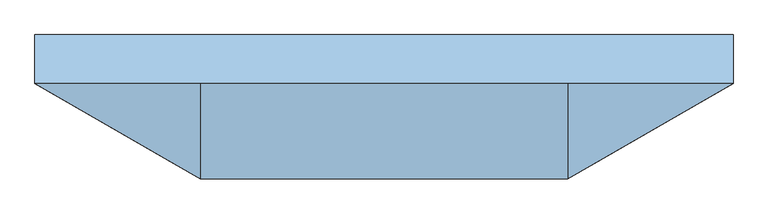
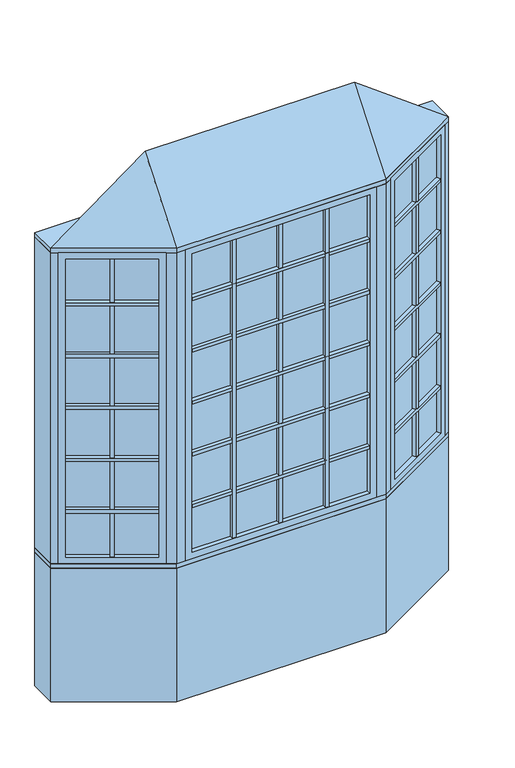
"""IFC4 building model written with IfcOpenShell, lengths in millimetres: window geometry, Pollard_Windows_Tudor Casement Bows and Bays : AML-BAY 30 AFR0518-12-500_GC."""

from ifc_helpers import new_model, si_unit, frame, origin, origin_with_axes, place, context, project, spatial, polyline, outline, extrude, faceted_brep, source, transform, mapped, element, save


def window_4c319ae2(model_context):
    return source(origin(), model_context, "Body", "SolidModel", [
        extrude(outline(polyline([(645.7305346, -327.3537343), (634.7305346, -308.3011754), (1015.6135794, -88.3982469), (1026.6135794, -107.4508058), (645.7305346, -327.3537343)])), frame((0.0, 0.0, 1690.998), z_axis=(0.0, 0.0, 1.0), x_axis=(1.0, 0.0, 0.0)), (0.0, 0.0, 1.0), 18.0),
        extrude(outline(polyline([(632.1905346, -303.9017664), (621.1905346, -284.8492075), (1002.0735794, -64.946279), (1013.0735794, -83.9988379), (632.1905346, -303.9017664)])), frame((0.0, 0.0, 1690.998), z_axis=(0.0, 0.0, 1.0), x_axis=(1.0, 0.0, 0.0)), (0.0, 0.0, 1.0), 18.0),
        extrude(outline(polyline([(645.7305346, -327.3537343), (634.7305346, -308.3011754), (1015.6135794, -88.3982469), (1026.6135794, -107.4508058), (645.7305346, -327.3537343)])), frame((0.0, 0.0, 1090.998), z_axis=(0.0, 0.0, 1.0), x_axis=(1.0, 0.0, 0.0)), (0.0, 0.0, 1.0), 18.0),
        extrude(outline(polyline([(632.1905346, -303.9017664), (621.1905346, -284.8492075), (1002.0735794, -64.946279), (1013.0735794, -83.9988379), (632.1905346, -303.9017664)])), frame((0.0, 0.0, 1090.998), z_axis=(0.0, 0.0, 1.0), x_axis=(1.0, 0.0, 0.0)), (0.0, 0.0, 1.0), 18.0),
        extrude(outline(polyline([(645.7305346, -327.3537343), (634.7305346, -308.3011754), (1015.6135794, -88.3982469), (1026.6135794, -107.4508058), (645.7305346, -327.3537343)])), frame((0.0, 0.0, 1390.998), z_axis=(0.0, 0.0, 1.0), x_axis=(1.0, 0.0, 0.0)), (0.0, 0.0, 1.0), 18.0),
        extrude(outline(polyline([(632.1905346, -303.9017664), (621.1905346, -284.8492075), (1002.0735794, -64.946279), (1013.0735794, -83.9988379), (632.1905346, -303.9017664)])), frame((0.0, 0.0, 1390.998), z_axis=(0.0, 0.0, 1.0), x_axis=(1.0, 0.0, 0.0)), (0.0, 0.0, 1.0), 18.0),
        extrude(outline(polyline([(645.7305346, -327.3537343), (634.7305346, -308.3011754), (1015.6135794, -88.3982469), (1026.6135794, -107.4508058), (645.7305346, -327.3537343)])), frame((0.0, 0.0, 1990.998), z_axis=(0.0, 0.0, 1.0), x_axis=(1.0, 0.0, 0.0)), (0.0, 0.0, 1.0), 18.0),
        extrude(outline(polyline([(632.1905346, -303.9017664), (621.1905346, -284.8492075), (1002.0735794, -64.946279), (1013.0735794, -83.9988379), (632.1905346, -303.9017664)])), frame((0.0, 0.0, 1990.998), z_axis=(0.0, 0.0, 1.0), x_axis=(1.0, 0.0, 0.0)), (0.0, 0.0, 1.0), 18.0),
        extrude(outline(polyline([(645.7305346, -327.3537343), (634.7305346, -308.3011754), (1015.6135794, -88.3982469), (1026.6135794, -107.4508058), (645.7305346, -327.3537343)])), frame((0.0, 0.0, 2290.998), z_axis=(0.0, 0.0, 1.0), x_axis=(1.0, 0.0, 0.0)), (0.0, 0.0, 1.0), 18.0),
        extrude(outline(polyline([(632.1905346, -303.9017664), (621.1905346, -284.8492075), (1002.0735794, -64.946279), (1013.0735794, -83.9988379), (632.1905346, -303.9017664)])), frame((0.0, 0.0, 2290.998), z_axis=(0.0, 0.0, 1.0), x_axis=(1.0, 0.0, 0.0)), (0.0, 0.0, 1.0), 18.0),
        extrude(outline(polyline([(832.9662856, -193.8497112), (843.9662856, -212.9022701), (828.3778284, -221.9022701), (817.3778284, -202.8497112), (832.9662856, -193.8497112)])), frame((0.0, 0.0, 835.8628), z_axis=(0.0, 0.0, 1.0), x_axis=(1.0, 0.0, 0.0)), (0.0, 0.0, 1.0), 1728.2704),
        extrude(outline(polyline([(830.4262856, -189.4503021), (814.8378284, -198.4503021), (803.8378284, -179.3977432), (819.4262856, -170.3977432), (830.4262856, -189.4503021)])), frame((0.0, 0.0, 835.8628), z_axis=(0.0, 0.0, 1.0), x_axis=(1.0, 0.0, 0.0)), (0.0, 0.0, 1.0), 1728.2704),
        extrude(outline(polyline([(1026.612102, -82.0482469), (623.7320119, -314.6511754), (621.1920119, -310.2517664), (1024.072102, -77.6488379), (1026.612102, -82.0482469)])), frame((0.0, 0.0, 823.1628), z_axis=(0.0, 0.0, 1.0), x_axis=(1.0, 0.0, 0.0)), (0.0, 0.0, 1.0), 1753.6704),
        faceted_brep([(1015.6135794, -88.3982469, 835.8628), (1028.3135794, -110.3952922, 835.8628), (1028.3135794, -110.3952922, 2564.1332), (1015.6135794, -88.3982469, 2564.1332), (1024.072102, -77.6488379, 823.1628), (1026.612102, -82.0482469, 823.1628), (1026.612102, -82.0482469, 2576.8332), (1024.072102, -77.6488379, 2576.8332), (1000.3735794, -62.0017926, 835.8628), (1013.0735794, -83.9988379, 835.8628), (1013.0735794, -83.9988379, 2564.1332), (1000.3735794, -62.0017926, 2564.1332), (1059.3734073, -92.4628922, 799.998), (1031.4334073, -44.0693926, 799.998), (1031.4334073, -44.0693926, 2599.998), (1059.3734073, -92.4628922, 2599.998), (647.4305346, -330.2982207, 2564.1332), (634.7305346, -308.3011754, 2564.1332), (623.7320119, -314.6511754, 2576.8332), (621.1920119, -310.2517664, 2576.8332), (632.1905346, -303.9017664, 2564.1332), (619.4905346, -281.9047211, 2564.1332), (588.4307067, -299.8371211, 2599.998), (616.3707067, -348.2306207, 2599.998), (647.4305346, -330.2982207, 835.8628), (634.7305346, -308.3011754, 835.8628), (623.7320119, -314.6511754, 823.1628), (621.1920119, -310.2517664, 823.1628), (632.1905346, -303.9017664, 835.8628), (619.4905346, -281.9047211, 835.8628), (588.4307067, -299.8371211, 799.998), (616.3707067, -348.2306207, 799.998)], [[[0, 1, 2, 3]], [[4, 5, 6, 7]], [[8, 9, 10, 11]], [[12, 13, 14, 15]], [[3, 2, 16, 17]], [[7, 6, 18, 19]], [[11, 10, 20, 21]], [[15, 14, 22, 23]], [[17, 16, 24, 25]], [[19, 18, 26, 27]], [[21, 20, 28, 29]], [[23, 22, 30, 31]], [[25, 24, 1, 0]], [[5, 26, 18, 6], [3, 17, 25, 0]], [[27, 26, 5, 4]], [[7, 19, 27, 4], [9, 28, 20, 10]], [[29, 28, 9, 8]], [[13, 30, 22, 14], [11, 21, 29, 8]], [[31, 30, 13, 12]], [[15, 23, 31, 12], [1, 24, 16, 2]]]),
        extrude(outline(polyline([(263.4524182, -347.8306207), (263.4524182, -369.8306207), (245.4524182, -369.8306207), (245.4524182, -347.8306207), (263.4524182, -347.8306207)])), frame((0.0, 0.0, 835.8628), z_axis=(0.0, 0.0, 1.0), x_axis=(1.0, 0.0, 0.0)), (0.0, 0.0, 1.0), 1728.2704),
        extrude(outline(polyline([(263.4524182, -342.7506207), (245.4524182, -342.7506207), (245.4524182, -320.7506207), (263.4524182, -320.7506207), (263.4524182, -342.7506207)])), frame((0.0, 0.0, 835.8628), z_axis=(0.0, 0.0, 1.0), x_axis=(1.0, 0.0, 0.0)), (0.0, 0.0, 1.0), 1728.2704),
        extrude(outline(polyline([(-245.4524182, -347.8306207), (-245.4524182, -369.8306207), (-263.4524182, -369.8306207), (-263.4524182, -347.8306207), (-245.4524182, -347.8306207)])), frame((0.0, 0.0, 835.8628), z_axis=(0.0, 0.0, 1.0), x_axis=(1.0, 0.0, 0.0)), (0.0, 0.0, 1.0), 1728.2704),
        extrude(outline(polyline([(-245.4524182, -342.7506207), (-263.4524182, -342.7506207), (-263.4524182, -320.7506207), (-245.4524182, -320.7506207), (-245.4524182, -342.7506207)])), frame((0.0, 0.0, 835.8628), z_axis=(0.0, 0.0, 1.0), x_axis=(1.0, 0.0, 0.0)), (0.0, 0.0, 1.0), 1728.2704),
        extrude(outline(polyline([(-487.2046365, -369.8306207), (-487.2046365, -347.8306207), (487.2046365, -347.8306207), (487.2046365, -369.8306207), (-487.2046365, -369.8306207)])), frame((0.0, 0.0, 1090.998), z_axis=(0.0, 0.0, 1.0), x_axis=(1.0, 0.0, 0.0)), (0.0, 0.0, 1.0), 18.0),
        extrude(outline(polyline([(-487.2046365, -342.7506207), (-487.2046365, -320.7506207), (487.2046365, -320.7506207), (487.2046365, -342.7506207), (-487.2046365, -342.7506207)])), frame((0.0, 0.0, 1090.998), z_axis=(0.0, 0.0, 1.0), x_axis=(1.0, 0.0, 0.0)), (0.0, 0.0, 1.0), 18.0),
        extrude(outline(polyline([(-487.2046365, -369.8306207), (-487.2046365, -347.8306207), (487.2046365, -347.8306207), (487.2046365, -369.8306207), (-487.2046365, -369.8306207)])), frame((0.0, 0.0, 1390.998), z_axis=(0.0, 0.0, 1.0), x_axis=(1.0, 0.0, 0.0)), (0.0, 0.0, 1.0), 18.0),
        extrude(outline(polyline([(-487.2046365, -342.7506207), (-487.2046365, -320.7506207), (487.2046365, -320.7506207), (487.2046365, -342.7506207), (-487.2046365, -342.7506207)])), frame((0.0, 0.0, 1390.998), z_axis=(0.0, 0.0, 1.0), x_axis=(1.0, 0.0, 0.0)), (0.0, 0.0, 1.0), 18.0),
        extrude(outline(polyline([(-487.2046365, -369.8306207), (-487.2046365, -347.8306207), (487.2046365, -347.8306207), (487.2046365, -369.8306207), (-487.2046365, -369.8306207)])), frame((0.0, 0.0, 1690.998), z_axis=(0.0, 0.0, 1.0), x_axis=(1.0, 0.0, 0.0)), (0.0, 0.0, 1.0), 18.0),
        extrude(outline(polyline([(-487.2046365, -342.7506207), (-487.2046365, -320.7506207), (487.2046365, -320.7506207), (487.2046365, -342.7506207), (-487.2046365, -342.7506207)])), frame((0.0, 0.0, 1690.998), z_axis=(0.0, 0.0, 1.0), x_axis=(1.0, 0.0, 0.0)), (0.0, 0.0, 1.0), 18.0),
        extrude(outline(polyline([(-487.2046365, -369.8306207), (-487.2046365, -347.8306207), (487.2046365, -347.8306207), (487.2046365, -369.8306207), (-487.2046365, -369.8306207)])), frame((0.0, 0.0, 1990.998), z_axis=(0.0, 0.0, 1.0), x_axis=(1.0, 0.0, 0.0)), (0.0, 0.0, 1.0), 18.0),
        extrude(outline(polyline([(-487.2046365, -342.7506207), (-487.2046365, -320.7506207), (487.2046365, -320.7506207), (487.2046365, -342.7506207), (-487.2046365, -342.7506207)])), frame((0.0, 0.0, 1990.998), z_axis=(0.0, 0.0, 1.0), x_axis=(1.0, 0.0, 0.0)), (0.0, 0.0, 1.0), 18.0),
        extrude(outline(polyline([(-1026.6135794, -107.4508058), (-1015.6135794, -88.3982469), (-634.7305346, -308.3011754), (-645.7305346, -327.3537343), (-1026.6135794, -107.4508058)])), frame((0.0, 0.0, 1090.998), z_axis=(0.0, 0.0, 1.0), x_axis=(1.0, 0.0, 0.0)), (0.0, 0.0, 1.0), 18.0),
        extrude(outline(polyline([(-1013.0735794, -83.9988379), (-1002.0735794, -64.946279), (-621.1905346, -284.8492075), (-632.1905346, -303.9017664), (-1013.0735794, -83.9988379)])), frame((0.0, 0.0, 1090.998), z_axis=(0.0, 0.0, 1.0), x_axis=(1.0, 0.0, 0.0)), (0.0, 0.0, 1.0), 18.0),
        extrude(outline(polyline([(-1026.6135794, -107.4508058), (-1015.6135794, -88.3982469), (-634.7305346, -308.3011754), (-645.7305346, -327.3537343), (-1026.6135794, -107.4508058)])), frame((0.0, 0.0, 1390.998), z_axis=(0.0, 0.0, 1.0), x_axis=(1.0, 0.0, 0.0)), (0.0, 0.0, 1.0), 18.0),
        extrude(outline(polyline([(-1013.0735794, -83.9988379), (-1002.0735794, -64.946279), (-621.1905346, -284.8492075), (-632.1905346, -303.9017664), (-1013.0735794, -83.9988379)])), frame((0.0, 0.0, 1390.998), z_axis=(0.0, 0.0, 1.0), x_axis=(1.0, 0.0, 0.0)), (0.0, 0.0, 1.0), 18.0),
        extrude(outline(polyline([(-1026.6135794, -107.4508058), (-1015.6135794, -88.3982469), (-634.7305346, -308.3011754), (-645.7305346, -327.3537343), (-1026.6135794, -107.4508058)])), frame((0.0, 0.0, 1690.998), z_axis=(0.0, 0.0, 1.0), x_axis=(1.0, 0.0, 0.0)), (0.0, 0.0, 1.0), 18.0),
        extrude(outline(polyline([(-1013.0735794, -83.9988379), (-1002.0735794, -64.946279), (-621.1905346, -284.8492075), (-632.1905346, -303.9017664), (-1013.0735794, -83.9988379)])), frame((0.0, 0.0, 1690.998), z_axis=(0.0, 0.0, 1.0), x_axis=(1.0, 0.0, 0.0)), (0.0, 0.0, 1.0), 18.0),
        extrude(outline(polyline([(-1026.6135794, -107.4508058), (-1015.6135794, -88.3982469), (-634.7305346, -308.3011754), (-645.7305346, -327.3537343), (-1026.6135794, -107.4508058)])), frame((0.0, 0.0, 1990.998), z_axis=(0.0, 0.0, 1.0), x_axis=(1.0, 0.0, 0.0)), (0.0, 0.0, 1.0), 18.0),
        extrude(outline(polyline([(-1013.0735794, -83.9988379), (-1002.0735794, -64.946279), (-621.1905346, -284.8492075), (-632.1905346, -303.9017664), (-1013.0735794, -83.9988379)])), frame((0.0, 0.0, 1990.998), z_axis=(0.0, 0.0, 1.0), x_axis=(1.0, 0.0, 0.0)), (0.0, 0.0, 1.0), 18.0),
        extrude(outline(polyline([(-1026.6135794, -107.4508058), (-1015.6135794, -88.3982469), (-634.7305346, -308.3011754), (-645.7305346, -327.3537343), (-1026.6135794, -107.4508058)])), frame((0.0, 0.0, 2290.998), z_axis=(0.0, 0.0, 1.0), x_axis=(1.0, 0.0, 0.0)), (0.0, 0.0, 1.0), 18.0),
        extrude(outline(polyline([(-1013.0735794, -83.9988379), (-1002.0735794, -64.946279), (-621.1905346, -284.8492075), (-632.1905346, -303.9017664), (-1013.0735794, -83.9988379)])), frame((0.0, 0.0, 2290.998), z_axis=(0.0, 0.0, 1.0), x_axis=(1.0, 0.0, 0.0)), (0.0, 0.0, 1.0), 18.0),
        extrude(outline(polyline([(-487.2046365, -369.8306207), (-487.2046365, -347.8306207), (487.2046365, -347.8306207), (487.2046365, -369.8306207), (-487.2046365, -369.8306207)])), frame((0.0, 0.0, 2290.998), z_axis=(0.0, 0.0, 1.0), x_axis=(1.0, 0.0, 0.0)), (0.0, 0.0, 1.0), 18.0),
        extrude(outline(polyline([(-487.2046365, -342.7506207), (-487.2046365, -320.7506207), (487.2046365, -320.7506207), (487.2046365, -342.7506207), (-487.2046365, -342.7506207)])), frame((0.0, 0.0, 2290.998), z_axis=(0.0, 0.0, 1.0), x_axis=(1.0, 0.0, 0.0)), (0.0, 0.0, 1.0), 18.0),
        extrude(outline(polyline([(-817.3778284, -202.8497112), (-828.3778284, -221.9022701), (-843.9662856, -212.9022701), (-832.9662856, -193.8497112), (-817.3778284, -202.8497112)])), frame((0.0, 0.0, 835.8628), z_axis=(0.0, 0.0, 1.0), x_axis=(1.0, 0.0, 0.0)), (0.0, 0.0, 1.0), 1728.2704),
        extrude(outline(polyline([(-814.8378284, -198.4503021), (-830.4262856, -189.4503021), (-819.4262856, -170.3977432), (-803.8378284, -179.3977432), (-814.8378284, -198.4503021)])), frame((0.0, 0.0, 835.8628), z_axis=(0.0, 0.0, 1.0), x_axis=(1.0, 0.0, 0.0)), (0.0, 0.0, 1.0), 1728.2704),
        extrude(outline(polyline([(9.0, -347.8306207), (9.0, -369.8306207), (-9.0, -369.8306207), (-9.0, -347.8306207), (9.0, -347.8306207)])), frame((0.0, 0.0, 835.8628), z_axis=(0.0, 0.0, 1.0), x_axis=(1.0, 0.0, 0.0)), (0.0, 0.0, 1.0), 1728.2704),
        extrude(outline(polyline([(9.0, -342.7506207), (-9.0, -342.7506207), (-9.0, -320.7506207), (9.0, -320.7506207), (9.0, -342.7506207)])), frame((0.0, 0.0, 835.8628), z_axis=(0.0, 0.0, 1.0), x_axis=(1.0, 0.0, 0.0)), (0.0, 0.0, 1.0), 1728.2704),
        extrude(outline(polyline([(-623.7320119, -314.6511754), (-1026.612102, -82.0482469), (-1024.072102, -77.6488379), (-621.1920119, -310.2517664), (-623.7320119, -314.6511754)])), frame((0.0, 0.0, 823.1628), z_axis=(0.0, 0.0, 1.0), x_axis=(1.0, 0.0, 0.0)), (0.0, 0.0, 1.0), 1753.6704),
        faceted_brep([(-632.1905346, -303.9017664, 2564.1332), (-619.4905346, -281.9047211, 2564.1332), (-619.4905346, -281.9047211, 835.8628), (-632.1905346, -303.9017664, 835.8628), (-623.7320119, -314.6511754, 2576.8332), (-621.1920119, -310.2517664, 2576.8332), (-621.1920119, -310.2517664, 823.1628), (-623.7320119, -314.6511754, 823.1628), (-647.4305346, -330.2982207, 2564.1332), (-634.7305346, -308.3011754, 2564.1332), (-634.7305346, -308.3011754, 835.8628), (-647.4305346, -330.2982207, 835.8628), (-588.4307067, -299.8371211, 2599.998), (-616.3707067, -348.2306207, 2599.998), (-616.3707067, -348.2306207, 799.998), (-588.4307067, -299.8371211, 799.998), (-1000.3735794, -62.0017926, 835.8628), (-1013.0735794, -83.9988379, 835.8628), (-1024.072102, -77.6488379, 823.1628), (-1026.612102, -82.0482469, 823.1628), (-1015.6135794, -88.3982469, 835.8628), (-1028.3135794, -110.3952922, 835.8628), (-1059.3734073, -92.4628922, 799.998), (-1031.4334073, -44.0693926, 799.998), (-1000.3735794, -62.0017926, 2564.1332), (-1013.0735794, -83.9988379, 2564.1332), (-1024.072102, -77.6488379, 2576.8332), (-1026.612102, -82.0482469, 2576.8332), (-1015.6135794, -88.3982469, 2564.1332), (-1028.3135794, -110.3952922, 2564.1332), (-1059.3734073, -92.4628922, 2599.998), (-1031.4334073, -44.0693926, 2599.998)], [[[0, 1, 2, 3]], [[4, 5, 6, 7]], [[8, 9, 10, 11]], [[12, 13, 14, 15]], [[3, 2, 16, 17]], [[7, 6, 18, 19]], [[11, 10, 20, 21]], [[15, 14, 22, 23]], [[17, 16, 24, 25]], [[19, 18, 26, 27]], [[21, 20, 28, 29]], [[23, 22, 30, 31]], [[15, 23, 31, 12], [1, 24, 16, 2]], [[25, 24, 1, 0]], [[5, 26, 18, 6], [3, 17, 25, 0]], [[27, 26, 5, 4]], [[7, 19, 27, 4], [9, 28, 20, 10]], [[29, 28, 9, 8]], [[13, 30, 22, 14], [11, 21, 29, 8]], [[31, 30, 13, 12]]]),
        extrude(outline(polyline([(499.9046365, -347.8306207), (-499.9046365, -347.8306207), (-499.9046365, -342.7506207), (499.9046365, -342.7506207), (499.9046365, -347.8306207)])), frame((0.0, 0.0, 823.1628), z_axis=(0.0, 0.0, 1.0), x_axis=(1.0, 0.0, 0.0)), (0.0, 0.0, 1.0), 1753.6704),
        faceted_brep([(487.2046365, -347.8306207, 835.8628), (487.2046365, -373.2306207, 835.8628), (487.2046365, -373.2306207, 2564.1332), (487.2046365, -347.8306207, 2564.1332), (499.9046365, -342.7506207, 823.1628), (499.9046365, -347.8306207, 823.1628), (499.9046365, -347.8306207, 2576.8332), (499.9046365, -342.7506207, 2576.8332), (487.2046365, -317.3506207, 835.8628), (487.2046365, -342.7506207, 835.8628), (487.2046365, -342.7506207, 2564.1332), (487.2046365, -317.3506207, 2564.1332), (523.0694365, -373.2306207, 799.998), (523.0694365, -317.3506207, 799.998), (523.0694365, -317.3506207, 2599.998), (523.0694365, -373.2306207, 2599.998), (-487.2046365, -373.2306207, 2564.1332), (-487.2046365, -347.8306207, 2564.1332), (-499.9046365, -347.8306207, 2576.8332), (-499.9046365, -342.7506207, 2576.8332), (-487.2046365, -342.7506207, 2564.1332), (-487.2046365, -317.3506207, 2564.1332), (-523.0694365, -317.3506207, 2599.998), (-523.0694365, -373.2306207, 2599.998), (-487.2046365, -373.2306207, 835.8628), (-487.2046365, -347.8306207, 835.8628), (-499.9046365, -347.8306207, 823.1628), (-499.9046365, -342.7506207, 823.1628), (-487.2046365, -342.7506207, 835.8628), (-487.2046365, -317.3506207, 835.8628), (-523.0694365, -317.3506207, 799.998), (-523.0694365, -373.2306207, 799.998)], [[[0, 1, 2, 3]], [[4, 5, 6, 7]], [[8, 9, 10, 11]], [[12, 13, 14, 15]], [[3, 2, 16, 17]], [[7, 6, 18, 19]], [[11, 10, 20, 21]], [[15, 14, 22, 23]], [[17, 16, 24, 25]], [[19, 18, 26, 27]], [[21, 20, 28, 29]], [[23, 22, 30, 31]], [[15, 23, 31, 12], [1, 24, 16, 2]], [[25, 24, 1, 0]], [[5, 26, 18, 6], [3, 17, 25, 0]], [[27, 26, 5, 4]], [[7, 19, 27, 4], [9, 28, 20, 10]], [[29, 28, 9, 8]], [[13, 30, 22, 14], [11, 21, 29, 8]], [[31, 30, 13, 12]]]),
        faceted_brep([(1090.0, -74.7806207, 2625.398), (573.0694365, -373.2306207, 2625.398), (-573.0694365, -373.2306207, 2625.398), (-1090.0, -74.7806207, 2625.398), (-573.0694365, -74.7806207, 3006.398), (573.0694365, -74.7806207, 3006.398)], [[[0, 1, 2, 3]], [[3, 2, 4]], [[2, 1, 5, 4]], [[1, 0, 5]], [[0, 3, 4, 5]]]),
        extrude(outline(polyline([(-1090.0, 77.6193793), (1090.0, 77.6193793), (1090.0, -74.7806207), (573.0694365, -373.2306207), (-573.0694365, -373.2306207), (-1090.0, -74.7806207), (-1090.0, 77.6193793)])), frame((0.0, 0.0, 2599.998), z_axis=(0.0, 0.0, 1.0), x_axis=(1.0, 0.0, 0.0)), (0.0, 0.0, 1.0), 25.4),
        extrude(outline(polyline([(-1090.0, -74.7806207), (-1090.0, 77.6193793), (-1049.1645431, 77.6193793), (-1049.1645431, -74.7806207), (-1059.3734073, -92.4628922), (-1090.0, -74.7806207)])), frame((0.0, 0.0, 799.998), z_axis=(0.0, 0.0, 1.0), x_axis=(1.0, 0.0, 0.0)), (0.0, 0.0, 1.0), 1800.0),
        extrude(outline(polyline([(1090.0, 77.6193793), (1090.0, -74.7806207), (1059.3734073, -92.4628922), (1049.1645431, -74.7806207), (1049.1645431, 77.6193793), (1090.0, 77.6193793)])), frame((0.0, 0.0, 799.998), z_axis=(0.0, 0.0, 1.0), x_axis=(1.0, 0.0, 0.0)), (0.0, 0.0, 1.0), 1800.0),
        extrude(outline(polyline([(573.0694365, -373.2306207), (523.0694365, -373.2306207), (523.0694365, -323.2306207), (559.6719769, -323.2306207), (591.3707067, -304.9293505), (616.3707067, -348.2306207), (573.0694365, -373.2306207)])), frame((0.0, 0.0, 799.998), z_axis=(0.0, 0.0, 1.0), x_axis=(1.0, 0.0, 0.0)), (0.0, 0.0, 1.0), 1800.0),
        extrude(outline(polyline([(-573.0694365, -373.2306207), (-616.3707067, -348.2306207), (-591.3707067, -304.9293505), (-559.6719769, -323.2306207), (-523.0694365, -323.2306207), (-523.0694365, -373.2306207), (-573.0694365, -373.2306207)])), frame((0.0, 0.0, 799.998), z_axis=(0.0, 0.0, 1.0), x_axis=(1.0, 0.0, 0.0)), (0.0, 0.0, 1.0), 1800.0),
        extrude(outline(polyline([(-573.0694365, -373.2306207), (-1090.0, -74.7806207), (-1090.0, 77.6193793), (-1049.1645431, 77.6193793), (-532.2339796, -220.8306207), (532.2339796, -220.8306207), (1049.1645431, 77.6193793), (1090.0, 77.6193793), (1090.0, -74.7806207), (573.0694365, -373.2306207), (-573.0694365, -373.2306207)])), frame((0.0, 0.0, 774.598), z_axis=(0.0, 0.0, 1.0), x_axis=(1.0, 0.0, 0.0)), (0.0, 0.0, 1.0), 25.4),
        extrude(outline(polyline([(-1090.0, -74.7806207), (-1090.0, 77.6193793), (-1049.1645431, 77.6193793), (-532.2339796, -220.8306207), (532.2339796, -220.8306207), (1049.1645431, 77.6193793), (1090.0, 77.6193793), (1090.0, -74.7806207), (573.0694365, -373.2306207), (-573.0694365, -373.2306207), (-1090.0, -74.7806207)])), origin_with_axes(), (0.0, 0.0, 1.0), 774.598),
    ])


if __name__ == "__main__":
    model = new_model("IFC4")
    model_context = context("Model", 3, world=origin())
    ifc_project = project(units=[si_unit("LENGTHUNIT", "METRE", prefix="MILLI")], contexts=[model_context])
    site = spatial("IfcSite", under=ifc_project)
    building = spatial("IfcBuilding", under=site)
    placement = place(None, origin())
    window_shape = window_4c319ae2(model_context)
    element("IfcWindow", 1, ObjectType="Pollard_Windows_Tudor Casement Bows and Bays : AML-BAY 30 AFR0518-12-500_GC", at=placement, inside=building, context=model_context, shape_type="MappedRepresentation", body=[
        mapped(window_shape, transform((0.0, 0.0, 0.0), x_axis=(1.0, 0.0, 0.0), y_axis=(0.0, 1.0, 0.0), z_axis=(0.0, 0.0, 1.0))),
    ])
    save(model, "model.ifc")
